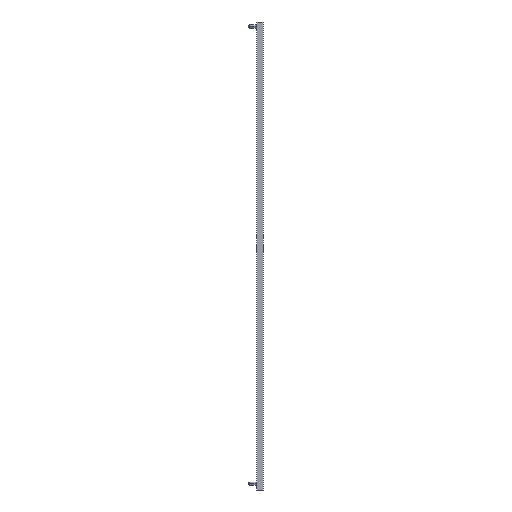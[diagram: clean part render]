
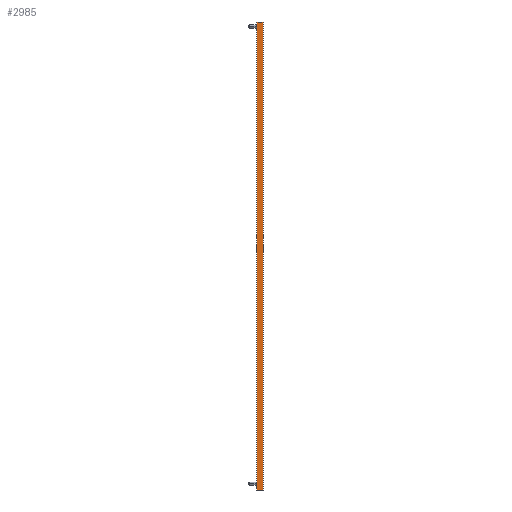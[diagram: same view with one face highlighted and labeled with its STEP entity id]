
A CAD part, left-side view. The second image highlights one B-rep face of the part: STEP entity #2985.
In plain terms, the highlighted planar face has unit normal (-1, 0, 0).
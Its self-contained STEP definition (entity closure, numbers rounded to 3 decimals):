
#13 = CARTESIAN_POINT ( 'NONE',  ( -8., 0., 0. ) ) ;
#210 = VECTOR ( 'NONE', #3142, 1000. ) ;
#241 = LINE ( 'NONE', #1454, #1685 ) ;
#291 = CARTESIAN_POINT ( 'NONE',  ( -8., 12.5, 879. ) ) ;
#369 = EDGE_CURVE ( 'NONE', #2400, #1485, #2921, .T. ) ;
#375 = DIRECTION ( 'NONE',  ( 0., -1., 0. ) ) ;
#421 = CARTESIAN_POINT ( 'NONE',  ( -8., 0., 879. ) ) ;
#443 = AXIS2_PLACEMENT_3D ( 'NONE', #1628, #2584, #2636 ) ;
#460 = EDGE_CURVE ( 'NONE', #1485, #1419, #241, .T. ) ;
#559 = VERTEX_POINT ( 'NONE', #3045 ) ;
#578 = FACE_OUTER_BOUND ( 'NONE', #1595, .T. ) ;
#617 = PLANE ( 'NONE',  #443 ) ;
#640 = LINE ( 'NONE', #2660, #990 ) ;
#895 = DIRECTION ( 'NONE',  ( 0., -1., 0. ) ) ;
#905 = EDGE_CURVE ( 'NONE', #2773, #2353, #2264, .T. ) ;
#924 = CARTESIAN_POINT ( 'NONE',  ( -8., 0., 0. ) ) ;
#925 = DIRECTION ( 'NONE',  ( 0., 0., 1. ) ) ;
#990 = VECTOR ( 'NONE', #895, 1000. ) ;
#1075 = LINE ( 'NONE', #1592, #2467 ) ;
#1178 = CARTESIAN_POINT ( 'NONE',  ( -8., 12.5, 879. ) ) ;
#1192 = LINE ( 'NONE', #924, #1996 ) ;
#1267 = CARTESIAN_POINT ( 'NONE',  ( -8., 0., 0. ) ) ;
#1346 = EDGE_CURVE ( 'NONE', #1419, #559, #1690, .T. ) ;
#1419 = VERTEX_POINT ( 'NONE', #2373 ) ;
#1444 = LINE ( 'NONE', #1178, #2164 ) ;
#1454 = CARTESIAN_POINT ( 'NONE',  ( -8., 0., 879. ) ) ;
#1470 = EDGE_CURVE ( 'NONE', #2353, #3225, #1192, .T. ) ;
#1485 = VERTEX_POINT ( 'NONE', #2672 ) ;
#1532 = EDGE_CURVE ( 'NONE', #2789, #559, #640, .T. ) ;
#1577 = CARTESIAN_POINT ( 'NONE',  ( -8., 0., 879. ) ) ;
#1584 = VECTOR ( 'NONE', #2824, 1000. ) ;
#1592 = CARTESIAN_POINT ( 'NONE',  ( -8., 0., 0. ) ) ;
#1595 = EDGE_LOOP ( 'NONE', ( #2170, #2507, #1874, #2242, #1701, #2182, #1630, #2115 ) ) ;
#1628 = CARTESIAN_POINT ( 'NONE',  ( -8., 0., 879. ) ) ;
#1630 = ORIENTED_EDGE ( 'NONE', *, *, #1346, .T. ) ;
#1685 = VECTOR ( 'NONE', #1732, 1000. ) ;
#1687 = CARTESIAN_POINT ( 'NONE',  ( -8., 3.2, 0. ) ) ;
#1690 = LINE ( 'NONE', #1577, #210 ) ;
#1701 = ORIENTED_EDGE ( 'NONE', *, *, #369, .T. ) ;
#1732 = DIRECTION ( 'NONE',  ( 0., 1., 0. ) ) ;
#1734 = VECTOR ( 'NONE', #2171, 1000. ) ;
#1874 = ORIENTED_EDGE ( 'NONE', *, *, #1470, .T. ) ;
#1996 = VECTOR ( 'NONE', #2687, 1000. ) ;
#2115 = ORIENTED_EDGE ( 'NONE', *, *, #1532, .F. ) ;
#2164 = VECTOR ( 'NONE', #925, 1000. ) ;
#2170 = ORIENTED_EDGE ( 'NONE', *, *, #2633, .F. ) ;
#2171 = DIRECTION ( 'NONE',  ( 0., 0., 1. ) ) ;
#2182 = ORIENTED_EDGE ( 'NONE', *, *, #460, .T. ) ;
#2242 = ORIENTED_EDGE ( 'NONE', *, *, #3104, .T. ) ;
#2264 = LINE ( 'NONE', #13, #1584 ) ;
#2353 = VERTEX_POINT ( 'NONE', #2462 ) ;
#2373 = CARTESIAN_POINT ( 'NONE',  ( -8., 3.2, 879. ) ) ;
#2400 = VERTEX_POINT ( 'NONE', #1267 ) ;
#2462 = CARTESIAN_POINT ( 'NONE',  ( -8., 9.3, 0. ) ) ;
#2467 = VECTOR ( 'NONE', #375, 1000. ) ;
#2507 = ORIENTED_EDGE ( 'NONE', *, *, #905, .T. ) ;
#2584 = DIRECTION ( 'NONE',  ( -1., 0., 0. ) ) ;
#2633 = EDGE_CURVE ( 'NONE', #2773, #2789, #1444, .T. ) ;
#2636 = DIRECTION ( 'NONE',  ( 0., 0., 1. ) ) ;
#2660 = CARTESIAN_POINT ( 'NONE',  ( -8., 12.5, 879. ) ) ;
#2672 = CARTESIAN_POINT ( 'NONE',  ( -8., 0., 879. ) ) ;
#2687 = DIRECTION ( 'NONE',  ( 0., -1., 0. ) ) ;
#2773 = VERTEX_POINT ( 'NONE', #3018 ) ;
#2789 = VERTEX_POINT ( 'NONE', #291 ) ;
#2824 = DIRECTION ( 'NONE',  ( 0., -1., 0. ) ) ;
#2921 = LINE ( 'NONE', #421, #1734 ) ;
#2985 = ADVANCED_FACE ( 'NONE', ( #578 ), #617, .T. ) ;
#3018 = CARTESIAN_POINT ( 'NONE',  ( -8., 12.5, 0. ) ) ;
#3045 = CARTESIAN_POINT ( 'NONE',  ( -8., 9.3, 879. ) ) ;
#3104 = EDGE_CURVE ( 'NONE', #3225, #2400, #1075, .T. ) ;
#3142 = DIRECTION ( 'NONE',  ( 0., 1., 0. ) ) ;
#3225 = VERTEX_POINT ( 'NONE', #1687 ) ;
